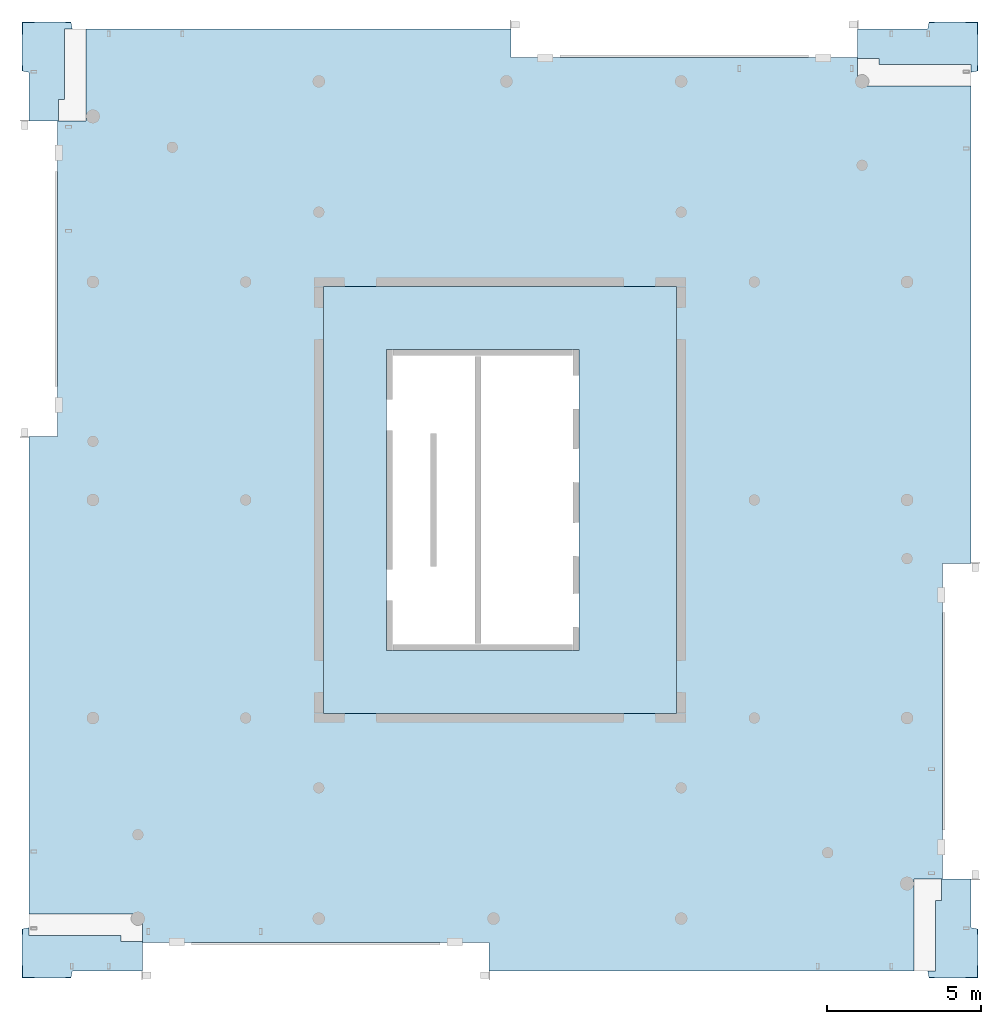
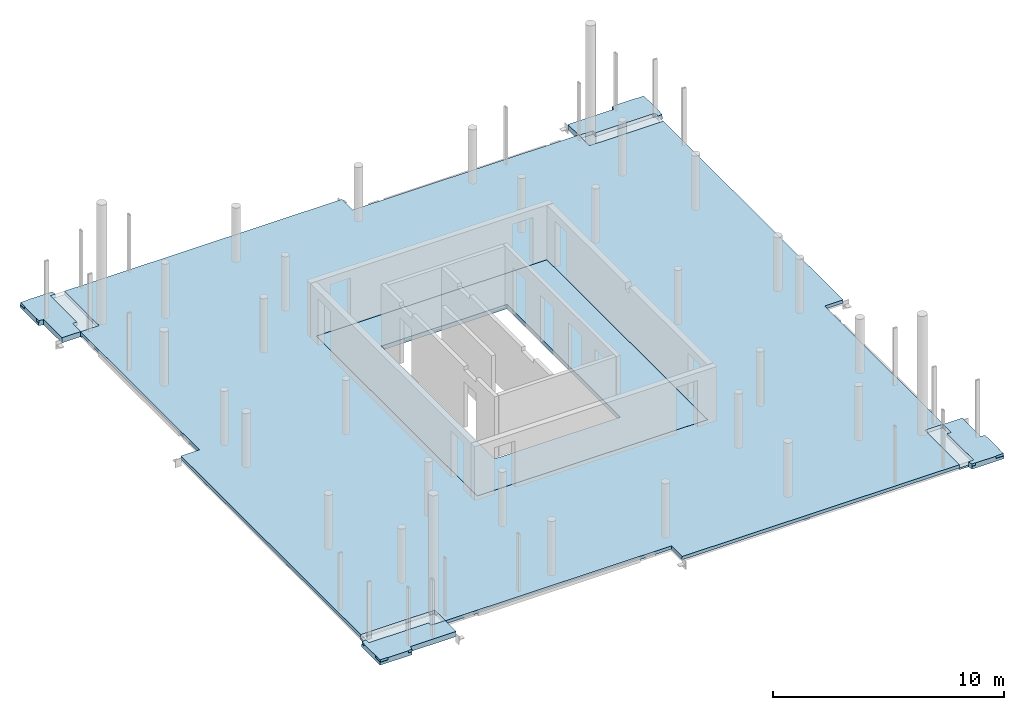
# One storey, part 7 of 7: 6 slabs.
"""IFC2X3 building model written with IfcOpenShell, lengths in millimetres."""

from ifc_helpers import new_model, entity, si_unit, converted_unit, derived_unit, direction, frame, origin, place, context, subcontext, project, spatial, faceted_brep, material, element, save


model = new_model("IFC2X3")

# Units and contexts
model_context = context("Model", 3, precision=0.01, world=origin(), true_north=direction((6.12303176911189e-17, 1.0)))
body_context = subcontext(model_context, "Body", "Model", "MODEL_VIEW")
ifc_project = project(units=[si_unit("LENGTHUNIT", "METRE", prefix="MILLI"), si_unit("AREAUNIT", "SQUARE_METRE"), si_unit("VOLUMEUNIT", "CUBIC_METRE"), converted_unit("PLANEANGLEUNIT", "DEGREE", entity("IfcRatioMeasure", 0.0174532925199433), si_unit("PLANEANGLEUNIT", "RADIAN"), dimensions=[0, 0, 0, 0, 0, 0, 0]), si_unit("MASSUNIT", "GRAM", prefix="KILO"), derived_unit("MASSDENSITYUNIT", [(si_unit("MASSUNIT", "GRAM", prefix="KILO"), 1), (si_unit("LENGTHUNIT", "METRE"), -3)]), si_unit("TIMEUNIT", "SECOND"), si_unit("FREQUENCYUNIT", "HERTZ"), si_unit("THERMODYNAMICTEMPERATUREUNIT", "DEGREE_CELSIUS"), derived_unit("THERMALTRANSMITTANCEUNIT", [(si_unit("MASSUNIT", "GRAM", prefix="KILO"), 1), (si_unit("THERMODYNAMICTEMPERATUREUNIT", "KELVIN"), -1), (si_unit("TIMEUNIT", "SECOND"), -3)]), derived_unit("VOLUMETRICFLOWRATEUNIT", [(si_unit("LENGTHUNIT", "METRE"), 3), (si_unit("TIMEUNIT", "SECOND"), -1)]), si_unit("ELECTRICCURRENTUNIT", "AMPERE"), si_unit("ELECTRICVOLTAGEUNIT", "VOLT"), si_unit("POWERUNIT", "WATT"), si_unit("FORCEUNIT", "NEWTON", prefix="KILO"), si_unit("ILLUMINANCEUNIT", "LUX"), si_unit("LUMINOUSFLUXUNIT", "LUMEN"), si_unit("LUMINOUSINTENSITYUNIT", "CANDELA"), derived_unit("USERDEFINED", [(si_unit("MASSUNIT", "GRAM", prefix="KILO"), -1), (si_unit("LENGTHUNIT", "METRE"), -2), (si_unit("TIMEUNIT", "SECOND"), 3), (si_unit("LUMINOUSFLUXUNIT", "LUMEN"), 1)]), derived_unit("LINEARVELOCITYUNIT", [(si_unit("LENGTHUNIT", "METRE"), 1), (si_unit("TIMEUNIT", "SECOND"), -1)]), si_unit("PRESSUREUNIT", "PASCAL"), derived_unit("USERDEFINED", [(si_unit("LENGTHUNIT", "METRE"), -2), (si_unit("MASSUNIT", "GRAM", prefix="KILO"), 1), (si_unit("TIMEUNIT", "SECOND"), -2)])], contexts=[model_context])

# Site, building, storey
site_placement = place(None, origin())
site = spatial("IfcSite", under=ifc_project, at=site_placement, Name="Default", CompositionType="ELEMENT")
building_placement = place(site_placement, origin())
building = spatial("IfcBuilding", under=site, at=building_placement, Name="niet gebruiken", CompositionType="ELEMENT")
storey_placement = place(building_placement, frame((0.0, 0.0, 165060.0)))
storey = spatial("IfcBuildingStorey", under=building, at=storey_placement, Name="53 drieënvijftigste verdieping", CompositionType="ELEMENT", Elevation=165060.0)

# Slabs
slab_1_placement = place(storey_placement, origin())
element("IfcSlab", 1, at=slab_1_placement, inside=storey, Name="Floor:NLRS_23.21_FL_vloer=230_gen", ObjectType="Floor:NLRS_23.21_FL_vloer=230_gen", PredefinedType="FLOOR", context=body_context, shape_type="Brep", body=[
    faceted_brep([(144330.0, 22400.0, -320.0), (138050.0, 22400.0, -320.0), (138050.0, 12600.0, -320.0), (144330.0, 12600.0, -320.0), (138040.0, 22410.0, -320.0), (144340.0, 22410.0, -320.0), (144340.0, 12590.0, -320.0), (138040.0, 12590.0, -320.0), (138050.0, 22400.0, -90.0), (144330.0, 22400.0, -90.0), (144330.0, 12600.0, -90.0), (138050.0, 12600.0, -90.0), (147500.0, 10550.0, -90.0), (147500.0, 24450.0, -90.0), (136000.0, 24450.0, -90.0), (136000.0, 10550.0, -90.0), (147500.0, 10550.0, -260.0), (147500.0, 24450.0, -260.0), (136000.0, 10550.0, -260.0), (136000.0, 24450.0, -260.0), (144340.0, 12590.0, -260.0), (144340.0, 22410.0, -260.0), (138040.0, 22410.0, -260.0), (138040.0, 12590.0, -260.0)], [[[0, 1, 2, 3], [4, 5, 6, 7]], [[8, 9, 10, 11], [12, 13, 14, 15]], [[13, 12, 16, 17]], [[12, 15, 18, 16]], [[15, 14, 19, 18]], [[14, 13, 17, 19]], [[1, 0, 9, 8]], [[2, 1, 8, 11]], [[3, 2, 11, 10]], [[0, 3, 10, 9]], [[20, 21, 22, 23], [17, 16, 18, 19]], [[22, 21, 5, 4]], [[23, 22, 4, 7]], [[20, 23, 7, 6]], [[21, 20, 6, 5]]], outer=[[False, True], [False, True], [True], [True], [True], [True], [True], [True], [True], [True], [False, True], [True], [True], [True], [True]]),
])
slab_2_placement = place(storey_placement, origin())
element("IfcSlab", 2, at=slab_2_placement, inside=storey, Name="Floor:NLRS_23.22_FL_beton prefab d=270 3D element_gen", ObjectType="Floor:NLRS_23.22_FL_beton prefab d=270 3D element_gen", PredefinedType="LANDING", context=body_context, shape_type="Brep", body=[
    faceted_brep([(157080.0, 5160.0, -360.0), (157080.0, 3577.4764890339, -360.0), (157313.0, 3530.0, -360.0), (157313.0, 1937.0, -360.0), (155720.0, 1937.0, -360.0), (155672.52351097, 2170.0, -360.0), (155230.0, 2170.0, -360.0), (155230.0, 5160.0, -360.0), (157080.0, 3577.4764890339, -90.0), (157080.0, 5160.0, -90.0), (156130.0, 5160.0, -90.0), (156130.0, 4460.0, -90.0), (155930.0, 4460.0, -90.0), (155930.0, 2170.0, -90.0), (155672.52351097, 2170.0, -90.0), (155716.536050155, 1954.0, -90.0), (155895.0, 1954.0, -90.0), (155895.0, 1937.0, -90.0), (156913.0, 1937.0, -90.0), (156913.0, 1954.0, -90.0), (157296.0, 1954.0, -90.0), (157296.0, 2337.0, -90.0), (157313.0, 2337.0, -90.0), (157313.0, 3355.0, -90.0), (157296.0, 3355.0, -90.0), (157296.0, 3533.46394984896, -90.0), (157296.0, 3533.46394984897, -215.0), (157313.0, 3530.0, -215.0), (157313.0, 3355.0, -215.0), (157313.0, 2337.0, -215.0), (157313.0, 1937.0, -215.0), (156913.0, 1937.0, -215.0), (155895.0, 1937.0, -215.0), (155720.0, 1937.0, -215.0), (155716.536050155, 1954.0, -215.0), (155672.523510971, 2170.0, -260.0), (155230.0, 2170.0, -260.0), (155230.0, 5160.0, -260.0), (156130.0, 5160.0, -260.0), (156130.0, 4460.0, -260.0), (155930.0, 2170.0, -260.0), (155930.0, 4460.0, -260.0), (157296.0, 3355.0, -215.0), (155895.0, 1954.0, -215.0), (156913.0, 1954.0, -215.0), (157296.0, 2337.0, -215.0), (157296.0, 1954.0, -215.0)], [[[0, 1, 2, 3, 4, 5, 6, 7]], [[8, 9, 10, 11, 12, 13, 14, 15, 16, 17, 18, 19, 20, 21, 22, 23, 24, 25]], [[1, 0, 9, 8]], [[2, 1, 8, 25, 26, 27]], [[3, 2, 27, 28, 23, 22, 29, 30]], [[4, 3, 30, 31, 18, 17, 32, 33]], [[5, 4, 33, 34, 15, 14, 35]], [[6, 5, 35, 36]], [[7, 6, 36, 37]], [[0, 7, 37, 38, 10, 9]], [[39, 38, 37, 36, 35, 40, 41]], [[13, 40, 35, 14]], [[38, 39, 11, 10]], [[39, 41, 12, 11]], [[41, 40, 13, 12]], [[27, 26, 42, 28]], [[26, 25, 24, 42]], [[32, 43, 34, 33]], [[16, 43, 32, 17]], [[43, 16, 15, 34]], [[44, 31, 30, 29, 45, 46]], [[44, 19, 18, 31]], [[19, 44, 46, 20]], [[21, 45, 29, 22]], [[45, 21, 20, 46]], [[42, 24, 23, 28]]]),
])
slab_3_placement = place(storey_placement, origin())
element("IfcSlab", 3, at=slab_3_placement, inside=storey, Name="Floor:NLRS_23.22_FL_beton prefab d=270 3D element_gen", ObjectType="Floor:NLRS_23.22_FL_beton prefab d=270 3D element_gen", PredefinedType="LANDING", context=body_context, shape_type="Brep", body=[
    faceted_brep([(130110.0, 2170.0, -360.0), (127827.476489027, 2170.0, -360.0), (127780.0, 1937.0, -360.0), (126187.0, 1937.0, -360.0), (126187.0, 3530.0, -360.0), (126420.0, 3577.47648903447, -360.0), (126420.0, 4020.0, -360.0), (130110.0, 4020.0, -360.0), (127827.476489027, 2170.0, -90.0), (130110.0, 2170.0, -90.0), (130110.0, 3120.0, -90.0), (129410.0, 3120.0, -90.0), (129410.0, 3320.0, -90.0), (126420.0, 3320.0, -90.0), (126420.0, 3577.47648903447, -90.0), (126204.0, 3533.4639498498, -90.0), (126204.0, 3355.0, -90.0), (126187.0, 3355.0, -90.0), (126187.0, 2337.0, -90.0), (126204.0, 2337.0, -90.0), (126204.0, 1954.0, -90.0), (126587.0, 1954.0, -90.0), (126587.0, 1937.0, -90.0), (127605.0, 1937.0, -90.0), (127605.0, 1954.0, -90.0), (127783.463949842, 1954.0, -90.0), (127783.463949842, 1954.0, -215.0), (127780.0, 1937.0, -215.0), (127605.0, 1937.0, -215.0), (126587.0, 1937.0, -215.0), (126187.0, 1937.0, -215.0), (126187.0, 2337.0, -215.0), (126187.0, 3355.0, -215.0), (126187.0, 3530.0, -215.0), (126204.0, 3533.4639498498, -215.0), (126420.0, 3577.47648903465, -280.0), (126420.0, 4020.0, -280.0), (130110.0, 4020.0, -280.0), (130110.0, 3120.0, -280.0), (129410.0, 3120.0, -280.0), (126420.0, 3320.0, -280.0), (129410.0, 3320.0, -280.0), (127605.0, 1954.0, -215.0), (126587.0, 1954.0, -215.0), (126204.0, 1954.0, -215.0), (126204.0, 2337.0, -215.0), (126204.0, 3355.0, -215.0)], [[[0, 1, 2, 3, 4, 5, 6, 7]], [[8, 9, 10, 11, 12, 13, 14, 15, 16, 17, 18, 19, 20, 21, 22, 23, 24, 25]], [[1, 0, 9, 8]], [[2, 1, 8, 25, 26, 27]], [[3, 2, 27, 28, 23, 22, 29, 30]], [[4, 3, 30, 31, 18, 17, 32, 33]], [[5, 4, 33, 34, 15, 14, 35]], [[6, 5, 35, 36]], [[7, 6, 36, 37]], [[0, 7, 37, 38, 10, 9]], [[39, 38, 37, 36, 35, 40, 41]], [[38, 39, 11, 10]], [[39, 41, 12, 11]], [[41, 40, 13, 12]], [[13, 40, 35, 14]], [[27, 26, 42, 28]], [[26, 25, 24, 42]], [[42, 24, 23, 28]], [[29, 43, 44, 45, 31, 30]], [[21, 43, 29, 22]], [[43, 21, 20, 44]], [[45, 19, 18, 31]], [[19, 45, 44, 20]], [[32, 46, 34, 33]], [[16, 46, 32, 17]], [[46, 16, 15, 34]]]),
])
ifc_material = material(Name="NLRS_f2_beton ihwg")
slab_4_placement = place(storey_placement, origin())
element("IfcSlab", 4, at=slab_4_placement, inside=storey, material=ifc_material, Name="Floor:NLRS_23.21_FL_vloer d=270_gen", ObjectType="Floor:NLRS_23.21_FL_vloer d=270_gen", PredefinedType="FLOOR", context=body_context, shape_type="Brep", body=[
    faceted_brep([(136000.0, 24450.0, -360.0), (136000.0, 10550.0, -360.0), (147500.0, 10550.0, -360.0), (147500.0, 24450.0, -360.0), (135710.0, 7910.0, -360.0), (135710.0, 10260.0, -360.0), (126450.0, 10260.0, -360.0), (126450.0, 10540.0, -360.0), (135710.0, 10540.0, -360.0), (135710.0, 17360.0, -360.0), (126450.0, 17360.0, -360.0), (126450.0, 17640.0, -360.0), (135710.0, 17640.0, -360.0), (135710.0, 24460.0, -360.0), (133310.0, 24460.0, -360.0), (133310.0, 24740.0, -360.0), (135710.0, 24740.0, -360.0), (135710.0, 32800.0, -360.0), (135990.0, 32800.0, -360.0), (135990.0, 24740.0, -360.0), (147510.0, 24740.0, -360.0), (147510.0, 27090.0, -360.0), (147790.0, 27090.0, -360.0), (147790.0, 24740.0, -360.0), (157050.0, 24740.0, -360.0), (157050.0, 24460.0, -360.0), (147790.0, 24460.0, -360.0), (147790.0, 17640.0, -360.0), (157050.0, 17640.0, -360.0), (157050.0, 17340.0, -360.0), (147790.0, 17340.0, -360.0), (147790.0, 10540.0, -360.0), (150190.0, 10540.0, -360.0), (150190.0, 10260.0, -360.0), (147790.0, 10260.0, -360.0), (147790.0, 2200.0, -360.0), (147510.0, 2200.0, -360.0), (147510.0, 10260.0, -360.0), (135990.0, 10260.0, -360.0), (135990.0, 7910.0, -360.0), (127345.0, 29840.0, -90.0), (127345.0, 19560.0, -90.0), (126420.0, 19560.0, -90.0), (126420.0, 4020.0, -90.0), (130110.0, 4020.0, -90.0), (130110.0, 3120.0, -90.0), (130110.0, 3095.0, -90.0), (141390.0, 3095.0, -90.0), (141390.0, 2170.0, -90.0), (147395.0, 2170.0, -90.0), (148105.0, 2170.0, -90.0), (155230.0, 2170.0, -90.0), (155230.0, 5160.0, -90.0), (156130.0, 5160.0, -90.0), (156155.0, 5160.0, -90.0), (156155.0, 15440.0, -90.0), (157080.0, 15440.0, -90.0), (157080.0, 30980.0, -90.0), (153390.0, 30980.0, -90.0), (153390.0, 31880.0, -90.0), (153390.0, 31905.0, -90.0), (142110.0, 31905.0, -90.0), (142110.0, 32830.0, -90.0), (128270.0, 32830.0, -90.0), (128270.0, 29840.0, -90.0), (127370.0, 29840.0, -90.0), (136000.0, 10550.0, -90.0), (136000.0, 24450.0, -90.0), (147500.0, 24450.0, -90.0), (147500.0, 10550.0, -90.0), (127345.0, 29840.0, -360.0), (127345.0, 29740.0, -360.0), (127345.0, 29740.0, -260.0), (127345.0, 19560.0, -260.0), (128270.0, 29840.0, -360.0), (128270.0, 29840.0, -260.0), (128270.0, 32830.0, -360.0), (128270.0, 32830.0, -260.0), (142110.0, 32830.0, -260.0), (128370.0, 32830.0, -260.0), (128370.0, 32830.0, -360.0), (142110.0, 31905.0, -260.0), (153390.0, 31905.0, -260.0), (153390.0, 30980.0, -260.0), (157080.0, 30980.0, -260.0), (157080.0, 15440.0, -260.0), (156155.0, 15440.0, -260.0), (156155.0, 5160.0, -260.0), (155230.0, 5160.0, -260.0), (156130.0, 5160.0, -260.0), (155230.0, 2170.0, -260.0), (141390.0, 2170.0, -260.0), (141390.0, 3095.0, -260.0), (130110.0, 3095.0, -260.0), (130110.0, 4020.0, -260.0), (130110.0, 3120.0, -260.0), (126420.0, 4020.0, -260.0), (126420.0, 19560.0, -260.0), (136000.0, 24450.0, -320.0), (136000.0, 10550.0, -320.0), (147500.0, 10550.0, -320.0), (147500.0, 24450.0, -320.0), (147510.0, 10540.0, -320.0), (147510.0, 24460.0, -320.0), (135990.0, 24460.0, -320.0), (135990.0, 10540.0, -320.0), (136000.0, 24450.0, -260.0), (136000.0, 10550.0, -260.0), (147500.0, 10550.0, -260.0), (147500.0, 24450.0, -260.0), (135990.0, 24460.0, -260.0), (147510.0, 24460.0, -260.0), (147510.0, 10540.0, -260.0), (135990.0, 10540.0, -260.0), (128370.0, 29740.0, -260.0), (147510.0, 24740.0, -260.0), (135990.0, 24740.0, -260.0), (135990.0, 32800.0, -260.0), (135710.0, 32800.0, -260.0), (135710.0, 24740.0, -260.0), (133310.0, 24740.0, -260.0), (133310.0, 24460.0, -260.0), (135710.0, 24460.0, -260.0), (135710.0, 17640.0, -260.0), (126450.0, 17640.0, -260.0), (126450.0, 17360.0, -260.0), (135710.0, 17360.0, -260.0), (135710.0, 10540.0, -260.0), (126450.0, 10540.0, -260.0), (126450.0, 10260.0, -260.0), (135710.0, 10260.0, -260.0), (135710.0, 7910.0, -260.0), (135990.0, 7910.0, -260.0), (135990.0, 10260.0, -260.0), (147510.0, 10260.0, -260.0), (147510.0, 2200.0, -260.0), (147790.0, 2200.0, -260.0), (147790.0, 10260.0, -260.0), (150190.0, 10260.0, -260.0), (150190.0, 10540.0, -260.0), (147790.0, 10540.0, -260.0), (147790.0, 17340.0, -260.0), (157050.0, 17340.0, -260.0), (157050.0, 17640.0, -260.0), (147790.0, 17640.0, -260.0), (147790.0, 24460.0, -260.0), (157050.0, 24460.0, -260.0), (157050.0, 24740.0, -260.0), (147790.0, 24740.0, -260.0), (147790.0, 27090.0, -260.0), (147510.0, 27090.0, -260.0), (128370.0, 29740.0, -360.0)], [[[0, 1, 2, 3], [4, 5, 6, 7, 8, 9, 10, 11, 12, 13, 14, 15, 16, 17, 18, 19, 20, 21, 22, 23, 24, 25, 26, 27, 28, 29, 30, 31, 32, 33, 34, 35, 36, 37, 38, 39]], [[40, 41, 42, 43, 44, 45, 46, 47, 48, 49, 50, 51, 52, 53, 54, 55, 56, 57, 58, 59, 60, 61, 62, 63, 64, 65], [66, 67, 68, 69]], [[41, 40, 70, 71, 72, 73]], [[74, 70, 40, 65, 64, 75]], [[76, 74, 75, 64, 63, 77]], [[63, 62, 78, 79, 80, 76, 77]], [[62, 61, 81, 78]], [[61, 60, 82, 81]], [[60, 59, 58, 83, 82]], [[58, 57, 84, 83]], [[57, 56, 85, 84]], [[56, 55, 86, 85]], [[55, 54, 87, 86]], [[54, 53, 52, 88, 89, 87]], [[52, 51, 90, 88]], [[51, 50, 49, 48, 91, 90]], [[48, 47, 92, 91]], [[47, 46, 93, 92]], [[44, 94, 95, 93, 46, 45]], [[44, 43, 96, 94]], [[43, 42, 97, 96]], [[42, 41, 73, 97]], [[1, 0, 98, 99]], [[2, 1, 99, 100]], [[3, 2, 100, 101]], [[0, 3, 101, 98]], [[99, 98, 101, 100], [102, 103, 104, 105]], [[106, 107, 108, 109], [110, 111, 112, 113]], [[103, 102, 112, 111]], [[102, 105, 113, 112]], [[105, 104, 110, 113]], [[104, 103, 111, 110]], [[79, 78, 81, 82, 83, 84, 85, 86, 87, 89, 88, 90, 91, 92, 93, 95, 94, 96, 97, 73, 72, 114], [115, 116, 117, 118, 119, 120, 121, 122, 123, 124, 125, 126, 127, 128, 129, 130, 131, 132, 133, 134, 135, 136, 137, 138, 139, 140, 141, 142, 143, 144, 145, 146, 147, 148, 149, 150]], [[131, 130, 5, 4]], [[134, 133, 38, 37]], [[149, 148, 23, 22]], [[116, 115, 20, 19]], [[114, 72, 71, 151]], [[79, 114, 151, 80]], [[132, 131, 4, 39]], [[133, 132, 39, 38]], [[135, 134, 37, 36]], [[136, 135, 36, 35]], [[137, 136, 35, 34]], [[138, 137, 34, 33]], [[139, 138, 33, 32]], [[140, 139, 32, 31]], [[141, 140, 31, 30]], [[142, 141, 30, 29]], [[143, 142, 29, 28]], [[144, 143, 28, 27]], [[145, 144, 27, 26]], [[146, 145, 26, 25]], [[147, 146, 25, 24]], [[148, 147, 24, 23]], [[150, 149, 22, 21]], [[115, 150, 21, 20]], [[117, 116, 19, 18]], [[118, 117, 18, 17]], [[119, 118, 17, 16]], [[120, 119, 16, 15]], [[121, 120, 15, 14]], [[122, 121, 14, 13]], [[123, 122, 13, 12]], [[124, 123, 12, 11]], [[125, 124, 11, 10]], [[126, 125, 10, 9]], [[127, 126, 9, 8]], [[128, 127, 8, 7]], [[129, 128, 7, 6]], [[130, 129, 6, 5]], [[68, 67, 106, 109]], [[69, 68, 109, 108]], [[66, 69, 108, 107]], [[67, 66, 107, 106]], [[70, 74, 76, 80, 151, 71]]], outer=[[False, True], [True, False], [True], [True], [True], [True], [True], [True], [True], [True], [True], [True], [True], [True], [True], [True], [True], [True], [True], [True], [True], [True], [True], [True], [True], [True], [False, True], [False, True], [True], [True], [True], [True], [True, False], [True], [True], [True], [True], [True], [True], [True], [True], [True], [True], [True], [True], [True], [True], [True], [True], [True], [True], [True], [True], [True], [True], [True], [True], [True], [True], [True], [True], [True], [True], [True], [True], [True], [True], [True], [True], [True], [True], [True], [True], [True], [True], [True]]),
])
slab_5_placement = place(storey_placement, origin())
element("IfcSlab", 5, at=slab_5_placement, inside=storey, Name="Floor:NLRS_23.22_FL_beton prefab d=270 3D element_gen", ObjectType="Floor:NLRS_23.22_FL_beton prefab d=270 3D element_gen", PredefinedType="LANDING", context=body_context, shape_type="Brep", body=[
    faceted_brep([(126420.0, 29840.0, -360.0), (126420.0, 31422.5235109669, -360.0), (126187.0, 31470.0, -360.0), (126187.0, 33063.0, -360.0), (127780.0, 33063.0, -360.0), (127827.47648903, 32830.0, -360.0), (128270.0, 32830.0, -360.0), (128270.0, 29840.0, -360.0), (126420.0, 31422.5235109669, -90.0), (126420.0, 29840.0, -90.0), (127370.0, 29840.0, -90.0), (127370.0, 30540.0, -90.0), (127570.0, 30540.0, -90.0), (127570.0, 32830.0, -90.0), (127827.47648903, 32830.0, -90.0), (127783.463949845, 33046.0, -90.0), (127605.0, 33046.0, -90.0), (127605.0, 33063.0, -90.0), (126587.0, 33063.0, -90.0), (126587.0, 33046.0, -90.0), (126204.0, 33046.0, -90.0), (126204.0, 32663.0, -90.0), (126187.0, 32663.0, -90.0), (126187.0, 31645.0, -90.0), (126204.0, 31645.0, -90.0), (126204.0, 31466.5360501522, -90.0), (126204.0, 31466.5360501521, -215.0), (126187.0, 31470.0, -215.0), (126187.0, 31645.0, -215.0), (126187.0, 32663.0, -215.0), (126187.0, 33063.0, -215.0), (126587.0, 33063.0, -215.0), (127605.0, 33063.0, -215.0), (127780.0, 33063.0, -215.0), (127783.463949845, 33046.0, -215.0), (127827.476489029, 32830.0, -260.0), (128270.0, 32830.0, -260.0), (128270.0, 29840.0, -260.0), (127370.0, 29840.0, -260.0), (127370.0, 30540.0, -260.0), (127570.0, 32830.0, -260.0), (127570.0, 30540.0, -260.0), (126204.0, 31645.0, -215.0), (126204.0, 32663.0, -215.0), (126204.0, 33046.0, -215.0), (126587.0, 33046.0, -215.0), (127605.0, 33046.0, -215.0)], [[[0, 1, 2, 3, 4, 5, 6, 7]], [[8, 9, 10, 11, 12, 13, 14, 15, 16, 17, 18, 19, 20, 21, 22, 23, 24, 25]], [[1, 0, 9, 8]], [[2, 1, 8, 25, 26, 27]], [[3, 2, 27, 28, 23, 22, 29, 30]], [[4, 3, 30, 31, 18, 17, 32, 33]], [[5, 4, 33, 34, 15, 14, 35]], [[6, 5, 35, 36]], [[7, 6, 36, 37]], [[0, 7, 37, 38, 10, 9]], [[39, 38, 37, 36, 35, 40, 41]], [[13, 40, 35, 14]], [[38, 39, 11, 10]], [[39, 41, 12, 11]], [[41, 40, 13, 12]], [[27, 26, 42, 28]], [[26, 25, 24, 42]], [[43, 44, 45, 31, 30, 29]], [[21, 43, 29, 22]], [[43, 21, 20, 44]], [[45, 19, 18, 31]], [[19, 45, 44, 20]], [[42, 24, 23, 28]], [[32, 46, 34, 33]], [[16, 46, 32, 17]], [[46, 16, 15, 34]]]),
])
slab_6_placement = place(storey_placement, origin())
element("IfcSlab", 6, at=slab_6_placement, inside=storey, Name="Floor:NLRS_23.22_FL_beton prefab d=270 3D element_gen", ObjectType="Floor:NLRS_23.22_FL_beton prefab d=270 3D element_gen", PredefinedType="LANDING", context=body_context, shape_type="Brep", body=[
    faceted_brep([(153390.0, 32830.0, -360.0), (155672.523510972, 32830.0, -360.0), (155720.0, 33063.0, -360.0), (157313.0, 33063.0, -360.0), (157313.0, 31470.0, -360.0), (157080.0, 31422.5235109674, -360.0), (157080.0, 30980.0, -360.0), (153390.0, 30980.0, -360.0), (155672.523510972, 32830.0, -90.0), (153390.0, 32830.0, -90.0), (153390.0, 31880.0, -90.0), (154090.0, 31880.0, -90.0), (154090.0, 31680.0, -90.0), (157080.0, 31680.0, -90.0), (157080.0, 31422.5235109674, -90.0), (157296.0, 31466.5360501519, -90.0), (157296.0, 31645.0, -90.0), (157313.0, 31645.0, -90.0), (157313.0, 32663.0, -90.0), (157296.0, 32663.0, -90.0), (157296.0, 33046.0, -90.0), (156913.0, 33046.0, -90.0), (156913.0, 33063.0, -90.0), (155895.0, 33063.0, -90.0), (155895.0, 33046.0, -90.0), (155716.536050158, 33046.0, -90.0), (155716.536050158, 33046.0, -215.0), (155720.0, 33063.0, -215.0), (155895.0, 33063.0, -215.0), (156913.0, 33063.0, -215.0), (157313.0, 33063.0, -215.0), (157313.0, 32663.0, -215.0), (157313.0, 31645.0, -215.0), (157313.0, 31470.0, -215.0), (157296.0, 31466.5360501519, -215.0), (157080.0, 31422.5235109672, -280.0), (157080.0, 30980.0, -280.0), (153390.0, 30980.0, -280.0), (153390.0, 31880.0, -280.0), (154090.0, 31880.0, -280.0), (157080.0, 31680.0, -280.0), (154090.0, 31680.0, -280.0), (155895.0, 33046.0, -215.0), (157296.0, 31645.0, -215.0), (156913.0, 33046.0, -215.0), (157296.0, 33046.0, -215.0), (157296.0, 32663.0, -215.0)], [[[0, 1, 2, 3, 4, 5, 6, 7]], [[8, 9, 10, 11, 12, 13, 14, 15, 16, 17, 18, 19, 20, 21, 22, 23, 24, 25]], [[1, 0, 9, 8]], [[2, 1, 8, 25, 26, 27]], [[3, 2, 27, 28, 23, 22, 29, 30]], [[4, 3, 30, 31, 18, 17, 32, 33]], [[5, 4, 33, 34, 15, 14, 35]], [[6, 5, 35, 36]], [[7, 6, 36, 37]], [[0, 7, 37, 38, 10, 9]], [[39, 38, 37, 36, 35, 40, 41]], [[38, 39, 11, 10]], [[39, 41, 12, 11]], [[41, 40, 13, 12]], [[13, 40, 35, 14]], [[27, 26, 42, 28]], [[26, 25, 24, 42]], [[34, 33, 32, 43]], [[15, 34, 43, 16]], [[42, 24, 23, 28]], [[29, 44, 45, 46, 31, 30]], [[21, 44, 29, 22]], [[44, 21, 20, 45]], [[46, 19, 18, 31]], [[19, 46, 45, 20]], [[16, 43, 32, 17]]]),
])

save(model, "model.ifc")
